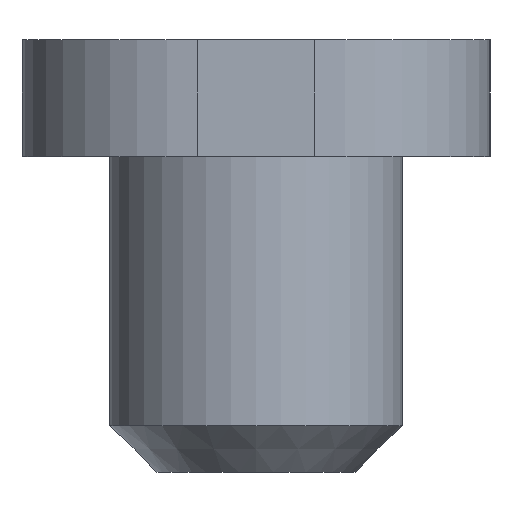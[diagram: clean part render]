
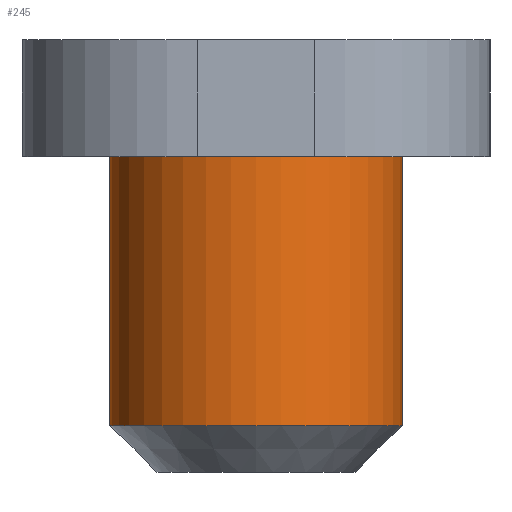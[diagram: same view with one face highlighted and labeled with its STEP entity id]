
A CAD part, left-side view. The second image highlights one B-rep face of the part: STEP entity #245.
In plain terms, the highlighted cylindrical face has radius 1.25 mm (diameter 2.5 mm), a full revolution.
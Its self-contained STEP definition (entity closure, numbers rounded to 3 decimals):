
#22=CYLINDRICAL_SURFACE('',#285,1.25);
#29=CIRCLE('',#273,1.25);
#39=CIRCLE('',#286,1.25);
#77=ORIENTED_EDGE('',*,*,#129,.T.);
#78=ORIENTED_EDGE('',*,*,#119,.F.);
#119=EDGE_CURVE('',#149,#149,#29,.T.);
#129=EDGE_CURVE('',#151,#151,#39,.T.);
#149=VERTEX_POINT('',#416);
#151=VERTEX_POINT('',#431);
#195=EDGE_LOOP('',(#77));
#196=EDGE_LOOP('',(#78));
#217=FACE_BOUND('',#195,.T.);
#218=FACE_BOUND('',#196,.T.);
#245=ADVANCED_FACE('',(#217,#218),#22,.T.);
#273=AXIS2_PLACEMENT_3D('',#415,#327,#328);
#285=AXIS2_PLACEMENT_3D('',#429,#351,#352);
#286=AXIS2_PLACEMENT_3D('',#430,#353,#354);
#327=DIRECTION('',(0.,0.,1.));
#328=DIRECTION('',(1.,0.,0.));
#351=DIRECTION('',(0.,0.,1.));
#352=DIRECTION('',(1.,0.,0.));
#353=DIRECTION('',(0.,0.,1.));
#354=DIRECTION('',(1.,0.,0.));
#415=CARTESIAN_POINT('',(-6.,-0.5,-1.));
#416=CARTESIAN_POINT('',(-4.75,-0.5,-1.));
#429=CARTESIAN_POINT('',(-6.,-0.5,-3.7));
#430=CARTESIAN_POINT('',(-6.,-0.5,-3.3));
#431=CARTESIAN_POINT('',(-4.75,-0.5,-3.3));
